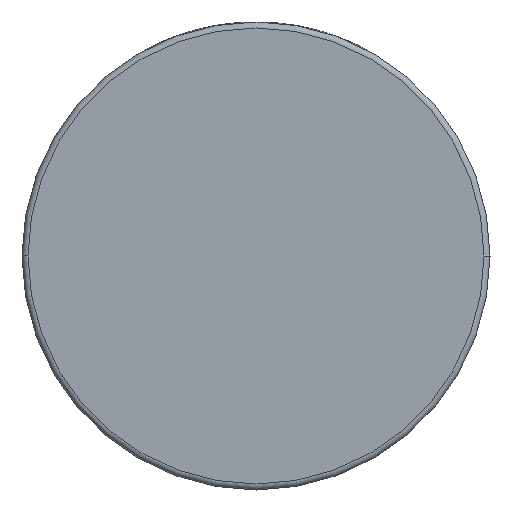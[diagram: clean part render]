
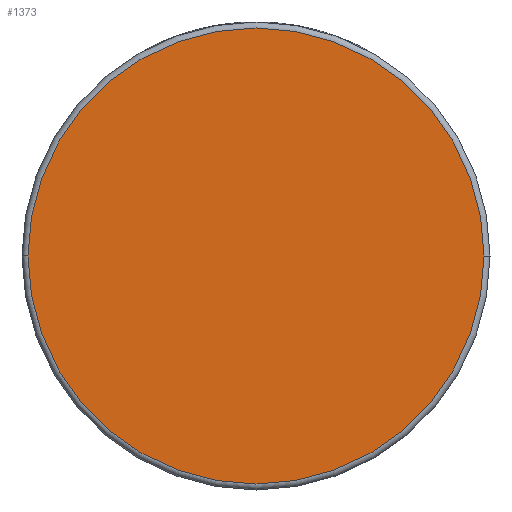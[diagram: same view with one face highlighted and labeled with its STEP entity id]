
A CAD part, front view. The second image highlights one B-rep face of the part: STEP entity #1373.
In plain terms, the highlighted planar face has unit normal (0, -1, 0).
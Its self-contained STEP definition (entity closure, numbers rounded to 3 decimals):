
#87 = CARTESIAN_POINT ( 'NONE',  ( 0., -26.5, 0. ) ) ;
#416 = CIRCLE ( 'NONE', #4269, 38. ) ;
#570 = EDGE_LOOP ( 'NONE', ( #2540, #1510 ) ) ;
#1036 = DIRECTION ( 'NONE',  ( 0., -1., 0. ) ) ;
#1188 = VERTEX_POINT ( 'NONE', #3095 ) ;
#1194 = EDGE_CURVE ( 'NONE', #2447, #1188, #416, .T. ) ;
#1373 = ADVANCED_FACE ( 'NONE', ( #2685 ), #2972, .T. ) ;
#1510 = ORIENTED_EDGE ( 'NONE', *, *, #2482, .T. ) ;
#1539 = AXIS2_PLACEMENT_3D ( 'NONE', #4332, #3373, #3675 ) ;
#2292 = CARTESIAN_POINT ( 'NONE',  ( 39., -26.5, 0. ) ) ;
#2447 = VERTEX_POINT ( 'NONE', #2559 ) ;
#2482 = EDGE_CURVE ( 'NONE', #1188, #2447, #3293, .T. ) ;
#2540 = ORIENTED_EDGE ( 'NONE', *, *, #1194, .T. ) ;
#2559 = CARTESIAN_POINT ( 'NONE',  ( 38., -26.5, 0. ) ) ;
#2685 = FACE_OUTER_BOUND ( 'NONE', #570, .T. ) ;
#2714 = DIRECTION ( 'NONE',  ( 1., 0., 0. ) ) ;
#2972 = PLANE ( 'NONE',  #3772 ) ;
#3095 = CARTESIAN_POINT ( 'NONE',  ( -38., -26.5, 0. ) ) ;
#3293 = CIRCLE ( 'NONE', #1539, 38. ) ;
#3373 = DIRECTION ( 'NONE',  ( 0., -1., 0. ) ) ;
#3423 = DIRECTION ( 'NONE',  ( 0., -1., 0. ) ) ;
#3652 = DIRECTION ( 'NONE',  ( 1., 0., 0. ) ) ;
#3675 = DIRECTION ( 'NONE',  ( 1., 0., 0. ) ) ;
#3772 = AXIS2_PLACEMENT_3D ( 'NONE', #2292, #1036, #3652 ) ;
#4269 = AXIS2_PLACEMENT_3D ( 'NONE', #87, #3423, #2714 ) ;
#4332 = CARTESIAN_POINT ( 'NONE',  ( 0., -26.5, 0. ) ) ;
